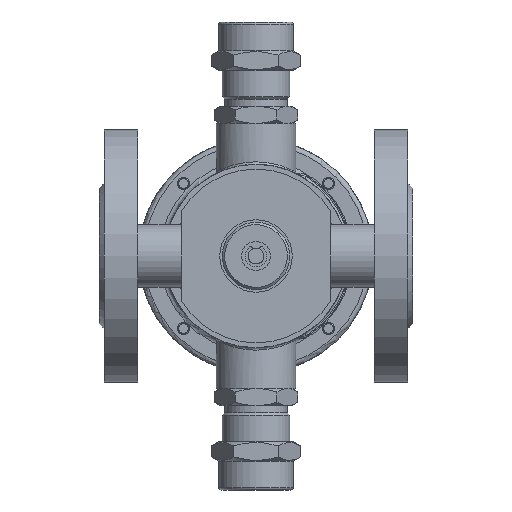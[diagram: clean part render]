
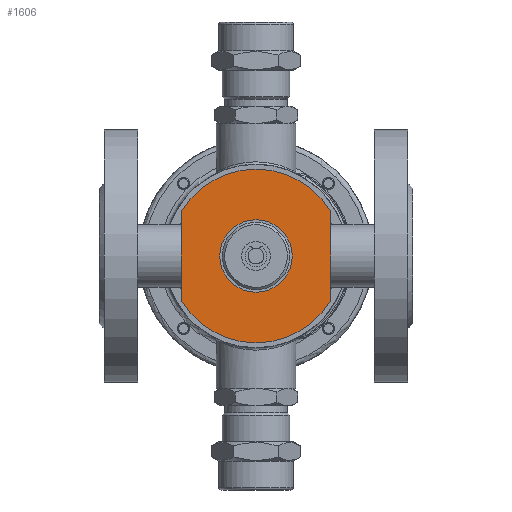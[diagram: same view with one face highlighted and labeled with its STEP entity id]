
A CAD part, front view. The second image highlights one B-rep face of the part: STEP entity #1606.
In plain terms, the highlighted planar face has unit normal (0, -1, 0).
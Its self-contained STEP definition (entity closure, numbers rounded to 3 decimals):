
#1606=ADVANCED_FACE('',(#18298,#18300),#18302,.T.);
#18298=FACE_BOUND('',#18299,.T.);
#18299=EDGE_LOOP('',(#28928));
#18300=FACE_OUTER_BOUND('',#18301,.T.);
#18301=EDGE_LOOP('',(#28929,#28930,#28931,#28932));
#18302=PLANE('',#18303);
#18303=AXIS2_PLACEMENT_3D('',#18304,#18305,#18306);
#18304=CARTESIAN_POINT('',(0.,-15.5,0.));
#18305=DIRECTION('',(0.,-1.,0.));
#18306=DIRECTION('',(-1.,0.,0.));
#28928=ORIENTED_EDGE('',*,*,#38001,.F.);
#28929=ORIENTED_EDGE('',*,*,#37984,.T.);
#28930=ORIENTED_EDGE('',*,*,#37992,.T.);
#28931=ORIENTED_EDGE('',*,*,#37990,.T.);
#28932=ORIENTED_EDGE('',*,*,#37987,.T.);
#37984=EDGE_CURVE('',#45261,#45262,#45263,.F.);
#37987=EDGE_CURVE('',#45266,#45261,#45267,.T.);
#37990=EDGE_CURVE('',#45271,#45266,#45272,.F.);
#37992=EDGE_CURVE('',#45262,#45271,#45274,.T.);
#38001=EDGE_CURVE('',#45289,#45289,#45290,.T.);
#45261=VERTEX_POINT('',#69581);
#45262=VERTEX_POINT('',#69582);
#45263=LINE('',#69583,#69584);
#45266=VERTEX_POINT('',#69592);
#45267=CIRCLE('',#69593,36.);
#45271=VERTEX_POINT('',#69605);
#45272=LINE('',#69606,#69607);
#45274=CIRCLE('',#69612,36.);
#45289=VERTEX_POINT('',#69652);
#45290=CIRCLE('',#69653,15.);
#69581=CARTESIAN_POINT('',(-31.,-15.5,18.303));
#69582=CARTESIAN_POINT('',(-31.,-15.5,-18.303));
#69583=CARTESIAN_POINT('',(-31.,-15.5,-18.303));
#69584=VECTOR('',#69585,1.);
#69585=DIRECTION('',(0.,0.,1.));
#69592=CARTESIAN_POINT('',(31.,-15.5,18.303));
#69593=AXIS2_PLACEMENT_3D('',#69594,#69595,#69596);
#69594=CARTESIAN_POINT('',(0.,-15.5,0.));
#69595=DIRECTION('',(0.,-1.,0.));
#69596=DIRECTION('',(0.861,0.,0.508));
#69605=CARTESIAN_POINT('',(31.,-15.5,-18.303));
#69606=CARTESIAN_POINT('',(31.,-15.5,18.303));
#69607=VECTOR('',#69608,1.);
#69608=DIRECTION('',(0.,0.,-1.));
#69612=AXIS2_PLACEMENT_3D('',#69613,#69614,#69615);
#69613=CARTESIAN_POINT('',(0.,-15.5,0.));
#69614=DIRECTION('',(0.,-1.,0.));
#69615=DIRECTION('',(-0.861,0.,-0.508));
#69652=CARTESIAN_POINT('',(-15.,-15.5,0.));
#69653=AXIS2_PLACEMENT_3D('',#69654,#69655,#69656);
#69654=CARTESIAN_POINT('',(0.,-15.5,0.));
#69655=DIRECTION('',(0.,-1.,0.));
#69656=DIRECTION('',(-1.,0.,0.));
